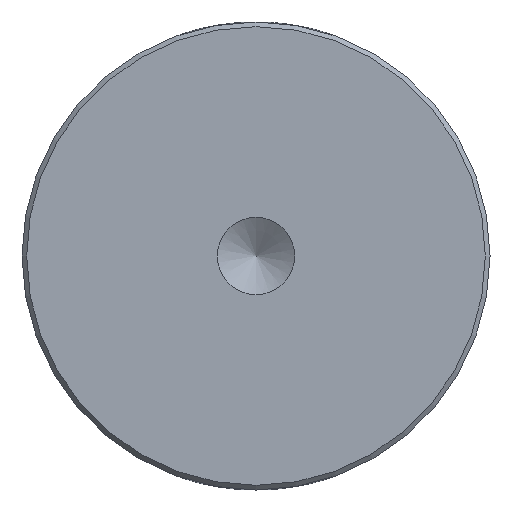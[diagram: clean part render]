
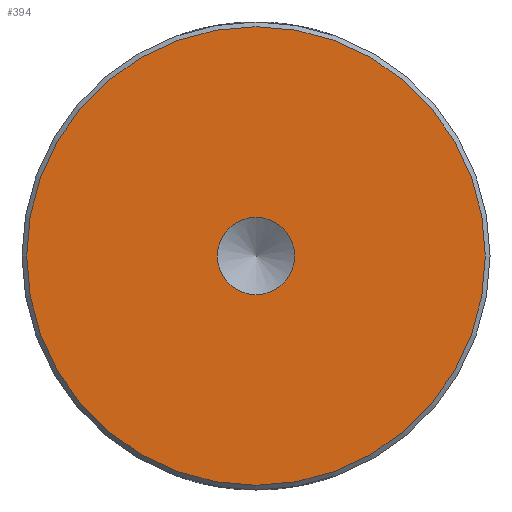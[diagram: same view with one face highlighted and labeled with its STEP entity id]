
A CAD part, front view. The second image highlights one B-rep face of the part: STEP entity #394.
In plain terms, the highlighted planar face has unit normal (0, -1, 0).
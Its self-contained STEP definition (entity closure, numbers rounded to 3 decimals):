
#13 = DIRECTION ( 'NONE',  ( 0., -1., 0. ) ) ;
#16 = CIRCLE ( 'NONE', #59, 1.65 ) ;
#23 = FACE_BOUND ( 'NONE', #378, .T. ) ;
#29 = PLANE ( 'NONE',  #171 ) ;
#38 = DIRECTION ( 'NONE',  ( 0., -1., 0. ) ) ;
#59 = AXIS2_PLACEMENT_3D ( 'NONE', #163, #13, #134 ) ;
#104 = CIRCLE ( 'NONE', #140, 9.8 ) ;
#115 = VERTEX_POINT ( 'NONE', #147 ) ;
#134 = DIRECTION ( 'NONE',  ( 0., 0., -1. ) ) ;
#140 = AXIS2_PLACEMENT_3D ( 'NONE', #191, #38, #227 ) ;
#147 = CARTESIAN_POINT ( 'NONE',  ( 0., -25., 9.8 ) ) ;
#150 = DIRECTION ( 'NONE',  ( 0., 0., 1. ) ) ;
#163 = CARTESIAN_POINT ( 'NONE',  ( 0., -25., 0. ) ) ;
#171 = AXIS2_PLACEMENT_3D ( 'NONE', #343, #372, #150 ) ;
#191 = CARTESIAN_POINT ( 'NONE',  ( 0., -25., 0. ) ) ;
#224 = EDGE_CURVE ( 'NONE', #115, #115, #104, .T. ) ;
#227 = DIRECTION ( 'NONE',  ( 0., 0., 1. ) ) ;
#244 = VERTEX_POINT ( 'NONE', #308 ) ;
#254 = ORIENTED_EDGE ( 'NONE', *, *, #327, .F. ) ;
#305 = FACE_OUTER_BOUND ( 'NONE', #383, .T. ) ;
#308 = CARTESIAN_POINT ( 'NONE',  ( 0., -25., -1.65 ) ) ;
#316 = ORIENTED_EDGE ( 'NONE', *, *, #224, .T. ) ;
#327 = EDGE_CURVE ( 'NONE', #244, #244, #16, .T. ) ;
#343 = CARTESIAN_POINT ( 'NONE',  ( 0., -25., 0. ) ) ;
#372 = DIRECTION ( 'NONE',  ( 0., 1., 0. ) ) ;
#378 = EDGE_LOOP ( 'NONE', ( #254 ) ) ;
#383 = EDGE_LOOP ( 'NONE', ( #316 ) ) ;
#394 = ADVANCED_FACE ( 'NONE', ( #305, #23 ), #29, .F. ) ;
